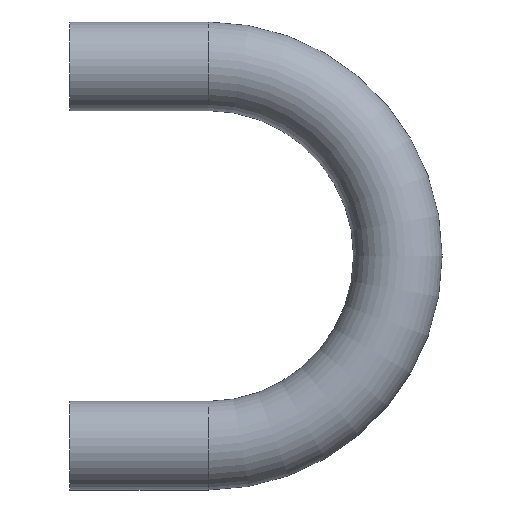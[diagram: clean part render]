
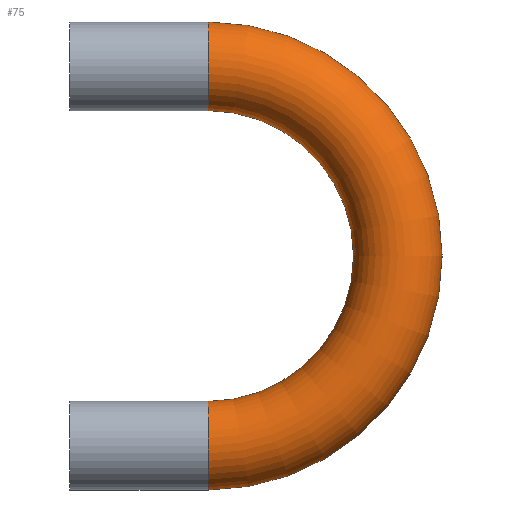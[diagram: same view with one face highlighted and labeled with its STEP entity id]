
A CAD part, left-side view. The second image highlights one B-rep face of the part: STEP entity #75.
In plain terms, the highlighted toroidal (fillet/blend) face has major radius 10.7 mm and minor radius 2.5 mm.
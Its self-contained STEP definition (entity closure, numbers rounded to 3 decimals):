
#17=TOROIDAL_SURFACE('',#97,10.7,2.5);
#19=FACE_OUTER_BOUND('',#24,.T.);
#24=EDGE_LOOP('',(#59,#60,#61,#62,#63,#64));
#33=CIRCLE('',#95,2.5);
#34=CIRCLE('',#96,2.5);
#35=CIRCLE('',#98,8.2);
#36=CIRCLE('',#99,2.5);
#37=CIRCLE('',#100,2.5);
#40=VERTEX_POINT('',#137);
#41=VERTEX_POINT('',#139);
#42=VERTEX_POINT('',#143);
#43=VERTEX_POINT('',#145);
#47=EDGE_CURVE('',#40,#41,#33,.T.);
#48=EDGE_CURVE('',#41,#40,#34,.T.);
#49=EDGE_CURVE('',#41,#42,#35,.T.);
#50=EDGE_CURVE('',#42,#43,#36,.T.);
#51=EDGE_CURVE('',#43,#42,#37,.T.);
#59=ORIENTED_EDGE('',*,*,#47,.F.);
#60=ORIENTED_EDGE('',*,*,#48,.F.);
#61=ORIENTED_EDGE('',*,*,#49,.T.);
#62=ORIENTED_EDGE('',*,*,#50,.T.);
#63=ORIENTED_EDGE('',*,*,#51,.T.);
#64=ORIENTED_EDGE('',*,*,#49,.F.);
#75=ADVANCED_FACE('',(#19),#17,.T.);
#95=AXIS2_PLACEMENT_3D('',#140,#112,#113);
#96=AXIS2_PLACEMENT_3D('',#141,#114,#115);
#97=AXIS2_PLACEMENT_3D('',#142,#116,#117);
#98=AXIS2_PLACEMENT_3D('',#144,#118,#119);
#99=AXIS2_PLACEMENT_3D('',#146,#120,#121);
#100=AXIS2_PLACEMENT_3D('',#147,#122,#123);
#112=DIRECTION('center_axis',(0.,1.,0.));
#113=DIRECTION('ref_axis',(1.,0.,0.));
#114=DIRECTION('center_axis',(0.,1.,0.));
#115=DIRECTION('ref_axis',(1.,0.,0.));
#116=DIRECTION('center_axis',(1.,0.,0.));
#117=DIRECTION('ref_axis',(0.,0.,-1.));
#118=DIRECTION('center_axis',(-1.,0.,0.));
#119=DIRECTION('ref_axis',(0.,0.,-1.));
#120=DIRECTION('center_axis',(0.,-1.,0.));
#121=DIRECTION('ref_axis',(1.,0.,0.));
#122=DIRECTION('center_axis',(0.,-1.,0.));
#123=DIRECTION('ref_axis',(1.,0.,0.));
#137=CARTESIAN_POINT('',(-2.5,0.,-10.7));
#139=CARTESIAN_POINT('',(0.,0.,-8.2));
#140=CARTESIAN_POINT('Origin',(0.,0.,-10.7));
#141=CARTESIAN_POINT('Origin',(0.,0.,-10.7));
#142=CARTESIAN_POINT('Origin',(0.,0.,0.));
#143=CARTESIAN_POINT('',(0.,0.,8.2));
#144=CARTESIAN_POINT('Origin',(0.,0.,0.));
#145=CARTESIAN_POINT('',(-2.5,0.,10.7));
#146=CARTESIAN_POINT('Origin',(0.,0.,10.7));
#147=CARTESIAN_POINT('Origin',(0.,0.,10.7));
